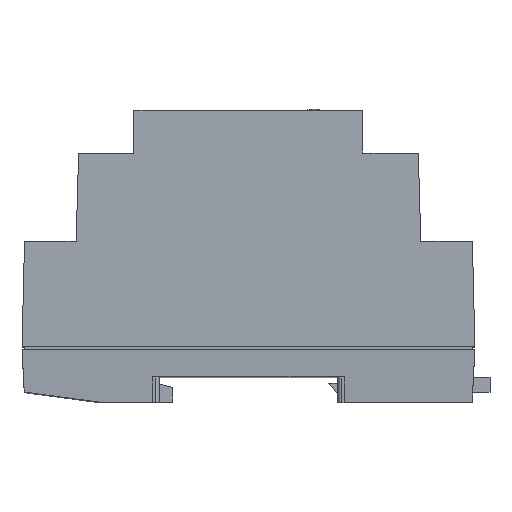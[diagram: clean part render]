
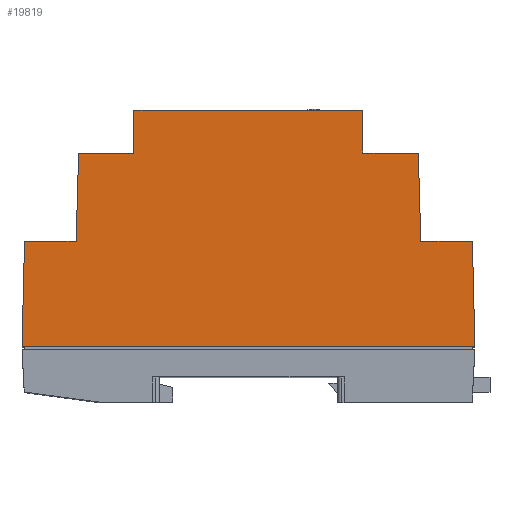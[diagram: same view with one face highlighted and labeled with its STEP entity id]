
A CAD part, top view. The second image highlights one B-rep face of the part: STEP entity #19819.
In plain terms, the highlighted planar face has unit normal (0, 0, 1).
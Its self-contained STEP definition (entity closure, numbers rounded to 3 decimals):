
#1540 = ORIENTED_EDGE ( 'NONE', *, *, #43030, .T. ) ;
#2313 = VERTEX_POINT ( 'NONE', #15316 ) ;
#2694 = CARTESIAN_POINT ( 'NONE',  ( -44.5, 21., 0. ) ) ;
#2725 = FACE_OUTER_BOUND ( 'NONE', #60478, .T. ) ;
#3371 = VERTEX_POINT ( 'NONE', #64679 ) ;
#3492 = VERTEX_POINT ( 'NONE', #14191 ) ;
#5607 = AXIS2_PLACEMENT_3D ( 'NONE', #23984, #49880, #65541 ) ;
#7935 = CARTESIAN_POINT ( 'NONE',  ( 45., 0., 0. ) ) ;
#8455 = VECTOR ( 'NONE', #38085, 1000. ) ;
#8890 = DIRECTION ( 'NONE',  ( 0., 1., 0. ) ) ;
#9224 = LINE ( 'NONE', #38186, #35940 ) ;
#9719 = VECTOR ( 'NONE', #39749, 1000. ) ;
#9898 = VECTOR ( 'NONE', #17615, 1000. ) ;
#10483 = CARTESIAN_POINT ( 'NONE',  ( -44.5, 21., 0. ) ) ;
#10863 = EDGE_CURVE ( 'NONE', #2313, #45704, #37849, .T. ) ;
#11449 = ORIENTED_EDGE ( 'NONE', *, *, #63718, .F. ) ;
#12685 = VERTEX_POINT ( 'NONE', #12896 ) ;
#12896 = CARTESIAN_POINT ( 'NONE',  ( 22.75, 47., 0. ) ) ;
#13109 = ORIENTED_EDGE ( 'NONE', *, *, #48854, .F. ) ;
#13167 = CARTESIAN_POINT ( 'NONE',  ( 33.75, 38.5, 0. ) ) ;
#14191 = CARTESIAN_POINT ( 'NONE',  ( 44.5, 21., 0. ) ) ;
#15316 = CARTESIAN_POINT ( 'NONE',  ( -34.25, 21., 0. ) ) ;
#16640 = VECTOR ( 'NONE', #48598, 1000. ) ;
#17031 = VECTOR ( 'NONE', #19042, 1000. ) ;
#17337 = VERTEX_POINT ( 'NONE', #28604 ) ;
#17615 = DIRECTION ( 'NONE',  ( 1., 0., 0. ) ) ;
#19042 = DIRECTION ( 'NONE',  ( -1., 0., 0. ) ) ;
#19170 = PLANE ( 'NONE',  #5607 ) ;
#19749 = VERTEX_POINT ( 'NONE', #48286 ) ;
#19819 = ADVANCED_FACE ( 'NONE', ( #2725 ), #19170, .F. ) ;
#20763 = VECTOR ( 'NONE', #34657, 1000. ) ;
#22624 = CARTESIAN_POINT ( 'NONE',  ( 34.25, 21., 0. ) ) ;
#22821 = ORIENTED_EDGE ( 'NONE', *, *, #27676, .T. ) ;
#23984 = CARTESIAN_POINT ( 'NONE',  ( 0., 47., 0. ) ) ;
#24032 = VECTOR ( 'NONE', #36041, 1000. ) ;
#24306 = VECTOR ( 'NONE', #54030, 1000. ) ;
#24313 = CARTESIAN_POINT ( 'NONE',  ( 22.75, 38.5, 0. ) ) ;
#24631 = LINE ( 'NONE', #2694, #8455 ) ;
#24918 = LINE ( 'NONE', #24313, #65613 ) ;
#24992 = EDGE_CURVE ( 'NONE', #3371, #33988, #45176, .T. ) ;
#26944 = LINE ( 'NONE', #53779, #9898 ) ;
#27676 = EDGE_CURVE ( 'NONE', #17337, #46211, #62538, .T. ) ;
#28313 = CARTESIAN_POINT ( 'NONE',  ( 44.5, 21., 0. ) ) ;
#28604 = CARTESIAN_POINT ( 'NONE',  ( 33.75, 38.5, 0. ) ) ;
#28746 = DIRECTION ( 'NONE',  ( -0.024, 1., 0. ) ) ;
#29149 = LINE ( 'NONE', #28313, #24306 ) ;
#31101 = DIRECTION ( 'NONE',  ( 0.024, 1., 0. ) ) ;
#33988 = VERTEX_POINT ( 'NONE', #10483 ) ;
#34657 = DIRECTION ( 'NONE',  ( -0.029, 1., 0. ) ) ;
#35940 = VECTOR ( 'NONE', #48858, 1000. ) ;
#36041 = DIRECTION ( 'NONE',  ( 0.029, 1., 0. ) ) ;
#36844 = CARTESIAN_POINT ( 'NONE',  ( -33.75, 38.5, 0. ) ) ;
#37045 = LINE ( 'NONE', #40401, #20763 ) ;
#37232 = CARTESIAN_POINT ( 'NONE',  ( 22.75, 38.5, 0. ) ) ;
#37336 = LINE ( 'NONE', #39275, #9719 ) ;
#37849 = LINE ( 'NONE', #56331, #24032 ) ;
#38085 = DIRECTION ( 'NONE',  ( 1., 0., 0. ) ) ;
#38186 = CARTESIAN_POINT ( 'NONE',  ( 0., 47., 0. ) ) ;
#38900 = VECTOR ( 'NONE', #28746, 1000. ) ;
#39275 = CARTESIAN_POINT ( 'NONE',  ( 0., 0., 0. ) ) ;
#39749 = DIRECTION ( 'NONE',  ( 1., 0., 0. ) ) ;
#40401 = CARTESIAN_POINT ( 'NONE',  ( 34.25, 21., 0. ) ) ;
#41092 = EDGE_CURVE ( 'NONE', #33988, #2313, #24631, .T. ) ;
#41183 = ORIENTED_EDGE ( 'NONE', *, *, #58209, .T. ) ;
#41528 = EDGE_CURVE ( 'NONE', #12685, #19749, #9224, .T. ) ;
#42648 = ORIENTED_EDGE ( 'NONE', *, *, #41092, .F. ) ;
#42700 = LINE ( 'NONE', #58811, #16640 ) ;
#42853 = EDGE_CURVE ( 'NONE', #3371, #65612, #37336, .T. ) ;
#43030 = EDGE_CURVE ( 'NONE', #3492, #52771, #29149, .T. ) ;
#43064 = EDGE_CURVE ( 'NONE', #65612, #3492, #50311, .T. ) ;
#43277 = ORIENTED_EDGE ( 'NONE', *, *, #42853, .T. ) ;
#45176 = LINE ( 'NONE', #62239, #50029 ) ;
#45704 = VERTEX_POINT ( 'NONE', #36844 ) ;
#46211 = VERTEX_POINT ( 'NONE', #37232 ) ;
#48286 = CARTESIAN_POINT ( 'NONE',  ( -22.75, 47., 0. ) ) ;
#48598 = DIRECTION ( 'NONE',  ( 0., 1., 0. ) ) ;
#48854 = EDGE_CURVE ( 'NONE', #45704, #64550, #26944, .T. ) ;
#48858 = DIRECTION ( 'NONE',  ( -1., 0., 0. ) ) ;
#49880 = DIRECTION ( 'NONE',  ( 0., 0., -1. ) ) ;
#50029 = VECTOR ( 'NONE', #31101, 1000. ) ;
#50311 = LINE ( 'NONE', #7935, #38900 ) ;
#51082 = ORIENTED_EDGE ( 'NONE', *, *, #43064, .T. ) ;
#52771 = VERTEX_POINT ( 'NONE', #22624 ) ;
#53779 = CARTESIAN_POINT ( 'NONE',  ( -33.75, 38.5, 0. ) ) ;
#54030 = DIRECTION ( 'NONE',  ( -1., 0., 0. ) ) ;
#55929 = CARTESIAN_POINT ( 'NONE',  ( -22.75, 38.5, 0. ) ) ;
#56011 = ORIENTED_EDGE ( 'NONE', *, *, #41528, .T. ) ;
#56331 = CARTESIAN_POINT ( 'NONE',  ( -34.25, 21., 0. ) ) ;
#57757 = EDGE_CURVE ( 'NONE', #46211, #12685, #24918, .T. ) ;
#58209 = EDGE_CURVE ( 'NONE', #52771, #17337, #37045, .T. ) ;
#58811 = CARTESIAN_POINT ( 'NONE',  ( -22.75, 38.5, 0. ) ) ;
#60408 = CARTESIAN_POINT ( 'NONE',  ( 45., 0., 0. ) ) ;
#60478 = EDGE_LOOP ( 'NONE', ( #56011, #11449, #13109, #63670, #42648, #61559, #43277, #51082, #1540, #41183, #22821, #63858 ) ) ;
#61559 = ORIENTED_EDGE ( 'NONE', *, *, #24992, .F. ) ;
#62239 = CARTESIAN_POINT ( 'NONE',  ( -45., 0., 0. ) ) ;
#62538 = LINE ( 'NONE', #13167, #17031 ) ;
#63670 = ORIENTED_EDGE ( 'NONE', *, *, #10863, .F. ) ;
#63718 = EDGE_CURVE ( 'NONE', #64550, #19749, #42700, .T. ) ;
#63858 = ORIENTED_EDGE ( 'NONE', *, *, #57757, .T. ) ;
#64550 = VERTEX_POINT ( 'NONE', #55929 ) ;
#64679 = CARTESIAN_POINT ( 'NONE',  ( -45., 0., 0. ) ) ;
#65541 = DIRECTION ( 'NONE',  ( -1., 0., 0. ) ) ;
#65612 = VERTEX_POINT ( 'NONE', #60408 ) ;
#65613 = VECTOR ( 'NONE', #8890, 1000. ) ;
